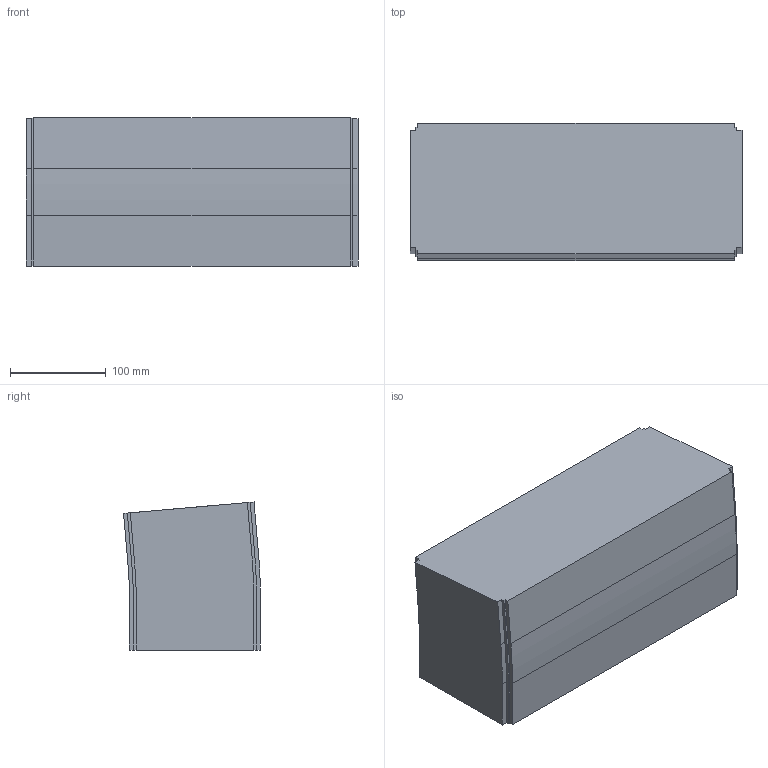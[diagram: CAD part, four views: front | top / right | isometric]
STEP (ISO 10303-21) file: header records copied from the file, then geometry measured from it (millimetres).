
FILE_DESCRIPTION (( 'STEP AP214' ), '1' );
FILE_NAME ('FS-MTC2-150-INOX verticaalbocht.350 5°.STEP', '2017-02-08T12:41:56', ( '' ), ( '' ), 'SwSTEP 2.0', 'SolidWorks 2016', '' );
FILE_SCHEMA (( 'AUTOMOTIVE_DESIGN' ));
Length unit declared in the file: millimetre
Products named in the file (1): FS-MTC2-150-INOX verticaalbocht.350 5°
Bounding box: 346 x 142.72 x 154.33 mm (x, y, z)
Volume: 6990310 mm3; surface area: 237492.3 mm2
Topology: 1 solids, 1 shells, 42 faces, 120 edges, 80 vertices
Faces by surface type: plane 32, cylinder 10
Entity records: 1398 total; most frequent: CARTESIAN_POINT 243, ORIENTED_EDGE 240, DIRECTION 226, EDGE_CURVE 120, VECTOR 100, LINE 100, VERTEX_POINT 80, AXIS2_PLACEMENT_3D 63
